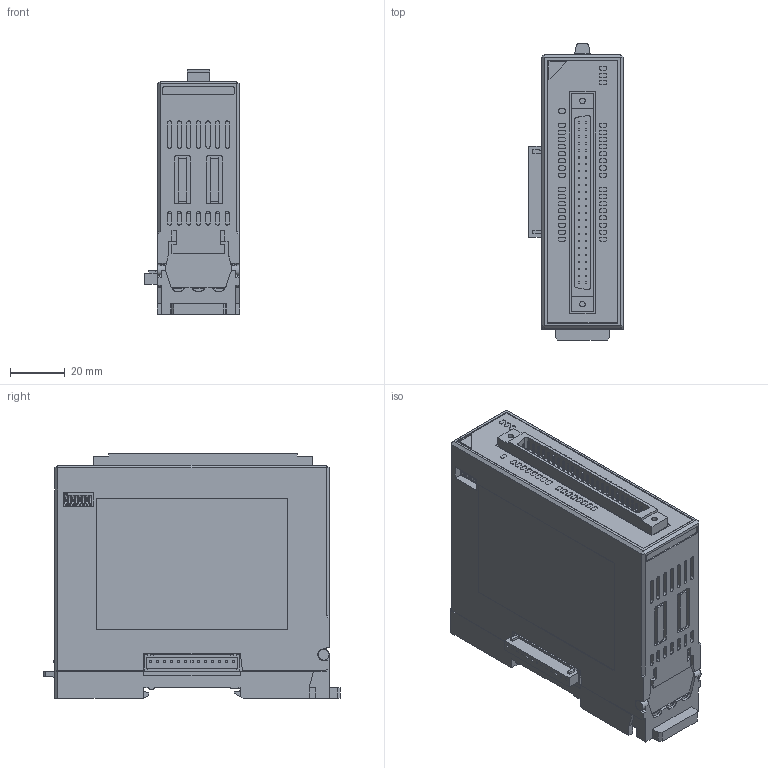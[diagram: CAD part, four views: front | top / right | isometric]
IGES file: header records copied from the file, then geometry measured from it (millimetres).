
Start section: SolidWorks IGES file using analytic representation for surfaces
Bounding box: 34.7 x 108 x 89.35 mm (x, y, z)
Surface area: 35973.9 mm2 (no closed solid volume)
Topology: 0 solids, 0 shells, 1797 faces, 12386 edges, 12386 vertices
Faces by surface type: bspline 1529, revolution 268
